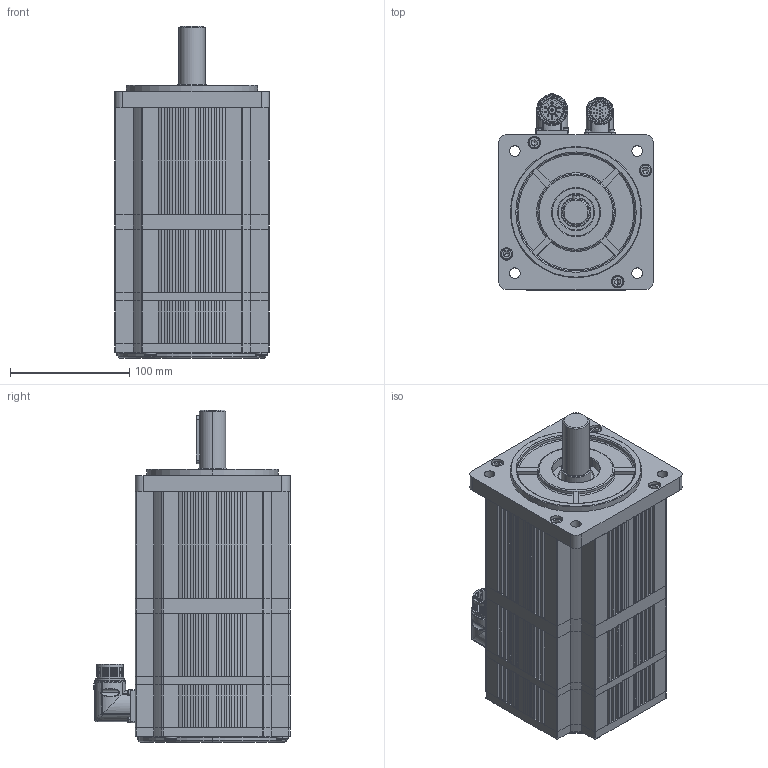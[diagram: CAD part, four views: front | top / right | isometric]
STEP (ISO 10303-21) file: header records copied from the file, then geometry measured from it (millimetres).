
FILE_DESCRIPTION (( 'STEP AP214' ), '1' );
FILE_NAME ('SMC130D-0150-20MBK-5LSP.STEP', '2022-09-14T05:53:40', ( '' ), ( '' ), 'SwSTEP 2.0', 'SolidWorks 2018', '' );
FILE_SCHEMA (( 'AUTOMOTIVE_DESIGN' ));
Length unit declared in the file: millimetre
Products named in the file (14): hexagon socket head cap screws gb_GB_FASTENER_SCREWS_HSHCS M2.5X8-N; SMC130D-0150-20MBK-5LSP; hexagon socket head cap screws gb_GB_FASTENER_SCREWS_HSHCS M6X55-N; 价陬欶; 儂褲; hexagon socket head cap screws gb_GB_FASTENER_SCREWS_HSHCS M6X20-N; 价陬裔啣; 郋弊莉陓瘍菁釱; 鎢攫欶褲极; 郋弊莉萇埭菁釱; 綴傷裔; ヶ傷裔; 鎢攫欶綴裔; ぱ籵A倰瑩
Assembly tree (26 placements, depth 2):
  SMC130D-0150-20MBK-5LSP
    ヶ傷裔
    儂褲
    綴傷裔
    鎢攫欶褲极
    鎢攫欶綴裔
    郋弊莉萇埭菁釱
    郋弊莉陓瘍菁釱
    hexagon socket head cap screws gb_GB_FASTENER_SCREWS_HSHCS M2.5X8-N  x8
    hexagon socket head cap screws gb_GB_FASTENER_SCREWS_HSHCS M6X55-N  x4
    ぱ籵A倰瑩
    hexagon socket head cap screws gb_GB_FASTENER_SCREWS_HSHCS M6X20-N  x4
    价陬欶
    价陬裔啣
Bounding box: 130 x 164.5 x 278.5 mm (x, y, z)
Volume: 3363843.9 mm3; surface area: 426751.5 mm2
Topology: 50 solids, 50 shells, 2087 faces, 5371 edges, 3423 vertices
Faces by surface type: plane 978, cylinder 870, cone 90, torus 90, sphere 46, bspline 13
Entity records: 67172 total; most frequent: CARTESIAN_POINT 11767, DIRECTION 9719, ORIENTED_EDGE 9058, EDGE_CURVE 4529, AXIS2_PLACEMENT_3D 3560, VERTEX_POINT 2948, LINE 2599, VECTOR 2599
